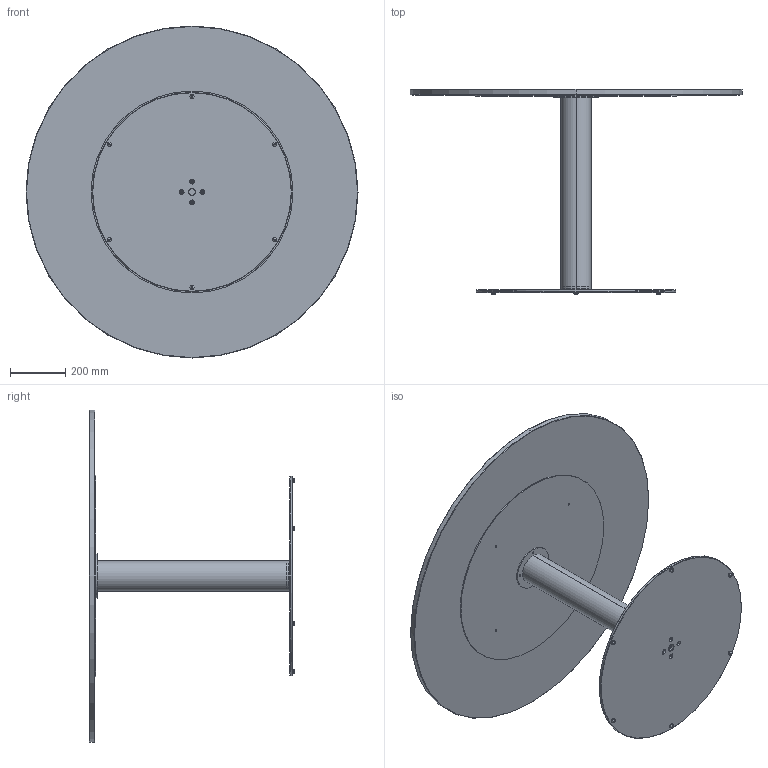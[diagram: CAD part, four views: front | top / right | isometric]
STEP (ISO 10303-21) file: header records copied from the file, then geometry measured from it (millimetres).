
FILE_DESCRIPTION (( 'STEP AP214' ), '1' );
FILE_NAME ('Missing Bistro Table, Ø120 Assembly.STEP', '2025-01-22T14:44:44', ( '' ), ( '' ), 'SwSTEP 2.0', 'SolidWorks 2024', '' );
FILE_SCHEMA (( 'AUTOMOTIVE_DESIGN' ));
Length unit declared in the file: millimetre
Products named in the file (5): Missing Bistro Table, Large Base; Missing Bistro Table, X-Large column Ø110; Ø120 Tabletop; Missing Bistro Table, Ø120 Assembly; Missing Bistro Table, Large Support plate
Assembly tree (4 placements, depth 2):
  Missing Bistro Table, Ø120 Assembly
    Missing Bistro Table, Large Base
    Missing Bistro Table, X-Large column Ø110
    Missing Bistro Table, Large Support plate
    Ø120 Tabletop
Bounding box: 1200 x 742 x 1200 mm (x, y, z)
Volume: 29344603.4 mm3; surface area: 4519063.1 mm2
Topology: 12 solids, 12 shells, 150 faces, 326 edges, 204 vertices
Faces by surface type: cylinder 82, plane 28, cone 28, torus 12
Entity records: 4492 total; most frequent: DIRECTION 856, CARTESIAN_POINT 687, ORIENTED_EDGE 652, AXIS2_PLACEMENT_3D 373, EDGE_CURVE 326, CIRCLE 216, EDGE_LOOP 204, VERTEX_POINT 204
